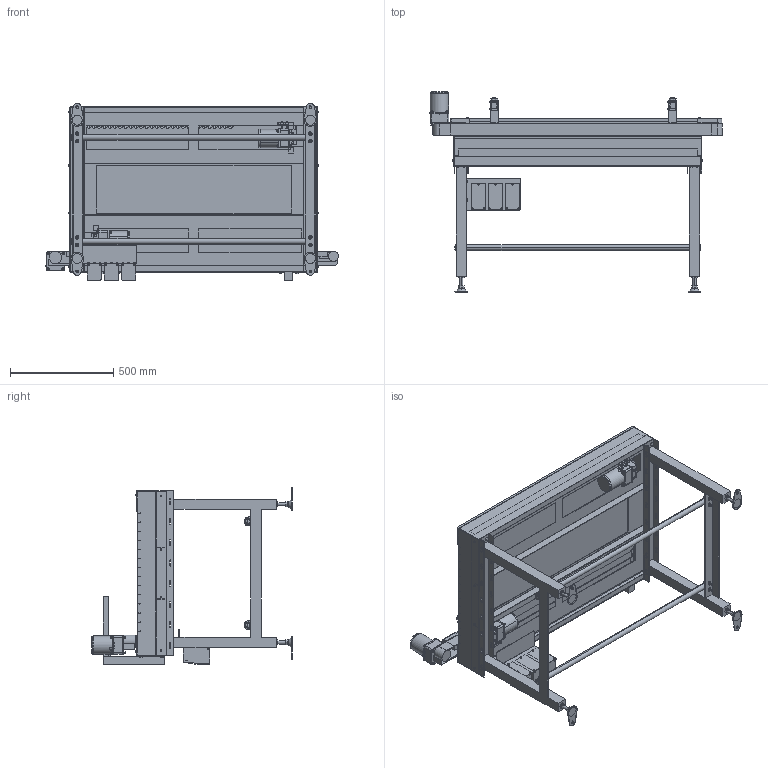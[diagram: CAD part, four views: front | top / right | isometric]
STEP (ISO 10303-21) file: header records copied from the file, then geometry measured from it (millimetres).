
FILE_DESCRIPTION( (''), '2;1');
FILE_NAME ('SGA-304x3-600-R-IVH-15-B.stp','2025-01-31T09:24:34',(''),(''),'spGate 20.6.2 (****-****-****-****)','','');
FILE_SCHEMA (('AUTOMOTIVE_DESIGN'));
Length unit declared in the file: millimetre
Products named in the file (94): NewModel; TEMP_X_T-prt0; TEMP_X_T-prt1; TEMP_X_T-prt2; TEMP_X_T-prt3; TEMP_X_T-prt4; TEMP_X_T-prt5; TEMP_X_T-prt6; TEMP_X_T-prt7; TEMP_X_T-prt8; TEMP_X_T-prt9; TEMP_X_T-prt10; TEMP_X_T-prt11; TEMP_X_T-prt12; TEMP_X_T-prt13; TEMP_X_T-prt14; TEMP_X_T-prt15; TEMP_X_T-prt16; TEMP_X_T-prt17; TEMP_X_T-prt18; TEMP_X_T-prt19; TEMP_X_T-prt20; TEMP_X_T-prt21; TEMP_X_T-prt22; TEMP_X_T-prt23; TEMP_X_T-prt24; TEMP_X_T-prt25; TEMP_X_T-prt26; TEMP_X_T-prt27; TEMP_X_T-prt28; TEMP_X_T-prt29; TEMP_X_T-prt30; TEMP_X_T-prt31; TEMP_X_T-prt32; TEMP_X_T-prt33; TEMP_X_T-prt34; TEMP_X_T-prt35; TEMP_X_T-prt36; TEMP_X_T-prt37; TEMP_X_T-prt38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
Assembly tree (93 placements, depth 2):
  NewModel
    TEMP_X_T-prt0
    TEMP_X_T-prt1
    TEMP_X_T-prt2
    TEMP_X_T-prt3
    TEMP_X_T-prt4
    TEMP_X_T-prt5
    TEMP_X_T-prt6
    TEMP_X_T-prt7
    TEMP_X_T-prt8
    TEMP_X_T-prt9
    TEMP_X_T-prt10
    TEMP_X_T-prt11
    TEMP_X_T-prt12
    TEMP_X_T-prt13
    TEMP_X_T-prt14
    TEMP_X_T-prt15
    TEMP_X_T-prt16
    TEMP_X_T-prt17
    TEMP_X_T-prt18
    TEMP_X_T-prt19
    TEMP_X_T-prt20
    TEMP_X_T-prt21
    TEMP_X_T-prt22
    TEMP_X_T-prt23
    TEMP_X_T-prt24
    TEMP_X_T-prt25
    TEMP_X_T-prt26
    TEMP_X_T-prt27
    TEMP_X_T-prt28
    TEMP_X_T-prt29
    TEMP_X_T-prt30
    TEMP_X_T-prt31
    TEMP_X_T-prt32
    TEMP_X_T-prt33
    TEMP_X_T-prt34
    TEMP_X_T-prt35
    TEMP_X_T-prt36
    TEMP_X_T-prt37
    TEMP_X_T-prt38
    TEMP_X_T-prt39
    TEMP_X_T-prt40
    TEMP_X_T-prt41
    TEMP_X_T-prt42
    TEMP_X_T-prt43
    TEMP_X_T-prt44
    TEMP_X_T-prt45
    TEMP_X_T-prt46
    TEMP_X_T-prt47
    TEMP_X_T-prt48
    TEMP_X_T-prt49
    TEMP_X_T-prt50
    TEMP_X_T-prt51
    TEMP_X_T-prt52
    TEMP_X_T-prt53
    TEMP_X_T-prt54
    TEMP_X_T-prt55
    TEMP_X_T-prt56
    TEMP_X_T-prt57
    TEMP_X_T-prt58
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Bounding box: 1419.27 x 969.4 x 860 mm (x, y, z)
Volume: 35014847.2 mm3; surface area: 8227751.4 mm2
Topology: 93 solids, 93 shells, 3500 faces, 8731 edges, 5606 vertices
Faces by surface type: plane 2296, cylinder 825, bspline 363, sphere 16
Entity records: 180476 total; most frequent: CARTESIAN_POINT 25941, ORIENTED_EDGE 17366, DIRECTION 16229, COLOUR_RGB 12276, PRESENTATION_STYLE_ASSIGNMENT 12276, STYLED_ITEM 12276, EDGE_CURVE 8683, DRAUGHTING_PRE_DEFINED_CURVE_FONT 8683
